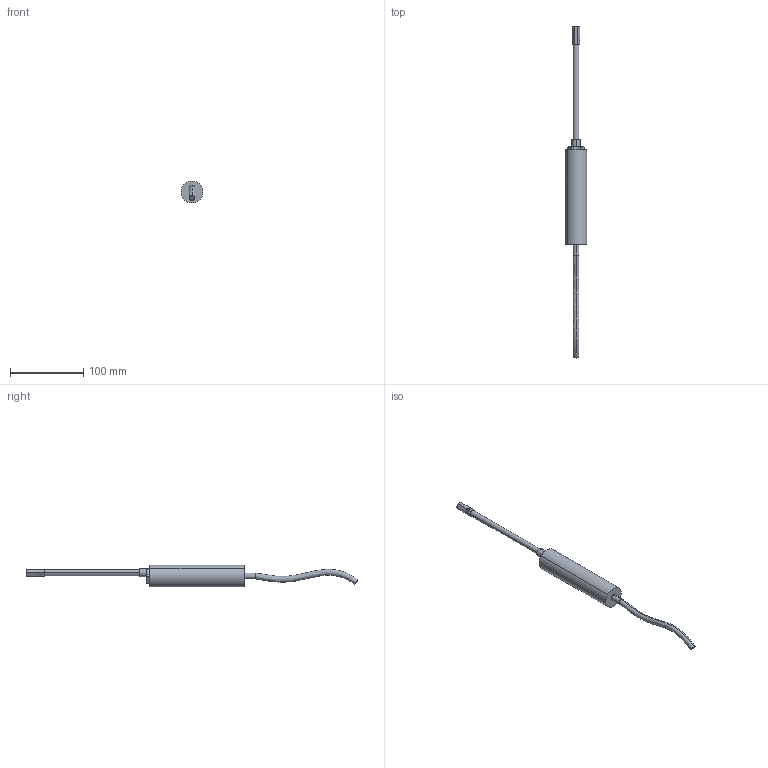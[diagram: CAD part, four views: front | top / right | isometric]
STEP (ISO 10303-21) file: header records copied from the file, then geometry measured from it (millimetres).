
FILE_DESCRIPTION (( 'STEP AP203' ), '1' );
FILE_NAME ('NX100炵蹈芛窒.STEP', '2026-09-01T09:04:44', ( '' ), ( '' ), 'SwSTEP 2.0', 'SolidWorks 2024', '' );
FILE_SCHEMA (( 'CONFIG_CONTROL_DESIGN' ));
Length unit declared in the file: millimetre
Products named in the file (1): NX100系列头部
Bounding box: 29.96 x 454.1 x 29.96 mm (x, y, z)
Volume: 109781.5 mm3; surface area: 23270.5 mm2
Topology: 4 solids, 5 shells, 56 faces, 112 edges, 67 vertices
Faces by surface type: plane 24, cone 18, cylinder 12, bspline 2
Entity records: 1873 total; most frequent: CARTESIAN_POINT 684, DIRECTION 228, ORIENTED_EDGE 224, EDGE_CURVE 112, AXIS2_PLACEMENT_3D 99, VERTEX_POINT 67, EDGE_LOOP 59, ADVANCED_FACE 56
